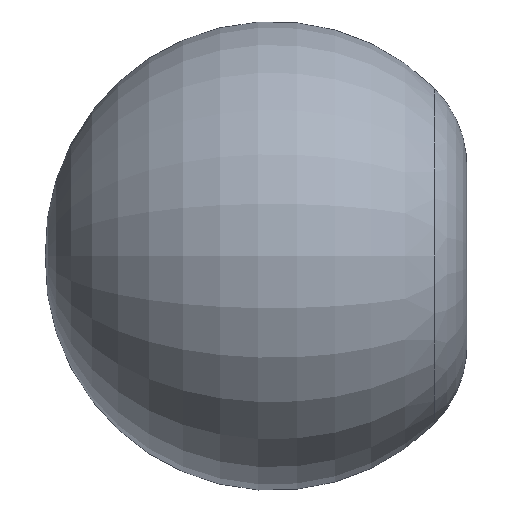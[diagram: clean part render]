
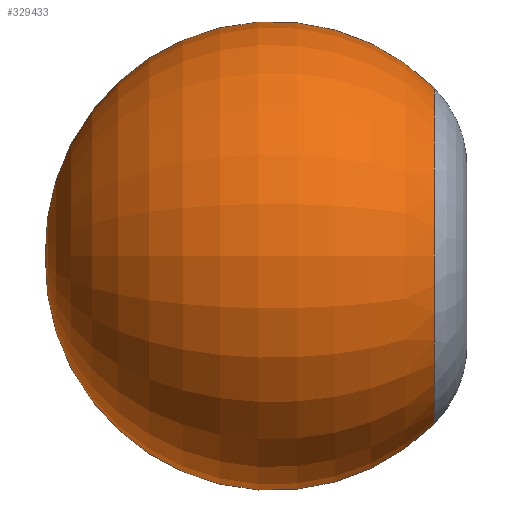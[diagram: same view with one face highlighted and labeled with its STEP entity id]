
A CAD part, left-side view. The second image highlights one B-rep face of the part: STEP entity #329433.
In plain terms, the highlighted toroidal (fillet/blend) face has major radius 25 mm and minor radius 876.439 mm.
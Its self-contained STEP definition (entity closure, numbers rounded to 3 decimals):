
#1343 = DIRECTION ( 'NONE',  ( 0., 0., -1. ) ) ;
#2374 = ORIENTED_EDGE ( 'NONE', *, *, #356919, .F. ) ;
#23000 = DIRECTION ( 'NONE',  ( 0., 1., 0. ) ) ;
#33603 = DIRECTION ( 'NONE',  ( 0., 0., 1. ) ) ;
#52183 = CARTESIAN_POINT ( 'NONE',  ( 619.736, -619.736, 0. ) ) ;
#54492 = ORIENTED_EDGE ( 'NONE', *, *, #275985, .T. ) ;
#65662 = CIRCLE ( 'NONE', #319913, 876.439 ) ;
#69358 = VERTEX_POINT ( 'NONE', #228474 ) ;
#76508 = EDGE_LOOP ( 'NONE', ( #2374, #241507, #54492 ) ) ;
#79133 = DIRECTION ( 'NONE',  ( -1., 0., 0. ) ) ;
#90193 = CIRCLE ( 'NONE', #124782, 644.736 ) ;
#111653 = CARTESIAN_POINT ( 'NONE',  ( -25., 0., 0. ) ) ;
#124782 = AXIS2_PLACEMENT_3D ( 'NONE', #242757, #264592, #297075 ) ;
#135178 = FACE_OUTER_BOUND ( 'NONE', #76508, .T. ) ;
#169653 = CARTESIAN_POINT ( 'NONE',  ( -50., 0., 0. ) ) ;
#188638 = AXIS2_PLACEMENT_3D ( 'NONE', #111653, #23000, #79133 ) ;
#200374 = DIRECTION ( 'NONE',  ( -1., 0., 0. ) ) ;
#206298 = EDGE_CURVE ( 'NONE', #292159, #69358, #90193, .T. ) ;
#212648 = AXIS2_PLACEMENT_3D ( 'NONE', #169653, #1343, #200374 ) ;
#223347 = TOROIDAL_SURFACE ( 'NONE', #188638, 25., 876.439 ) ;
#223836 = VERTEX_POINT ( 'NONE', #271032 ) ;
#228474 = CARTESIAN_POINT ( 'NONE',  ( -669.736, -619.736, 0. ) ) ;
#235903 = CIRCLE ( 'NONE', #212648, 876.439 ) ;
#241507 = ORIENTED_EDGE ( 'NONE', *, *, #206298, .T. ) ;
#242757 = CARTESIAN_POINT ( 'NONE',  ( -25., -619.736, 0. ) ) ;
#252733 = CARTESIAN_POINT ( 'NONE',  ( 0., 0., 0. ) ) ;
#264592 = DIRECTION ( 'NONE',  ( 0., 1., 0. ) ) ;
#271032 = CARTESIAN_POINT ( 'NONE',  ( -25., 876.082, 0. ) ) ;
#275985 = EDGE_CURVE ( 'NONE', #69358, #223836, #235903, .T. ) ;
#292159 = VERTEX_POINT ( 'NONE', #52183 ) ;
#297075 = DIRECTION ( 'NONE',  ( -1., 0., 0. ) ) ;
#310609 = DIRECTION ( 'NONE',  ( 1., 0., 0. ) ) ;
#319913 = AXIS2_PLACEMENT_3D ( 'NONE', #252733, #33603, #310609 ) ;
#329433 = ADVANCED_FACE ( 'NONE', ( #135178 ), #223347, .T. ) ;
#356919 = EDGE_CURVE ( 'NONE', #292159, #223836, #65662, .T. ) ;
